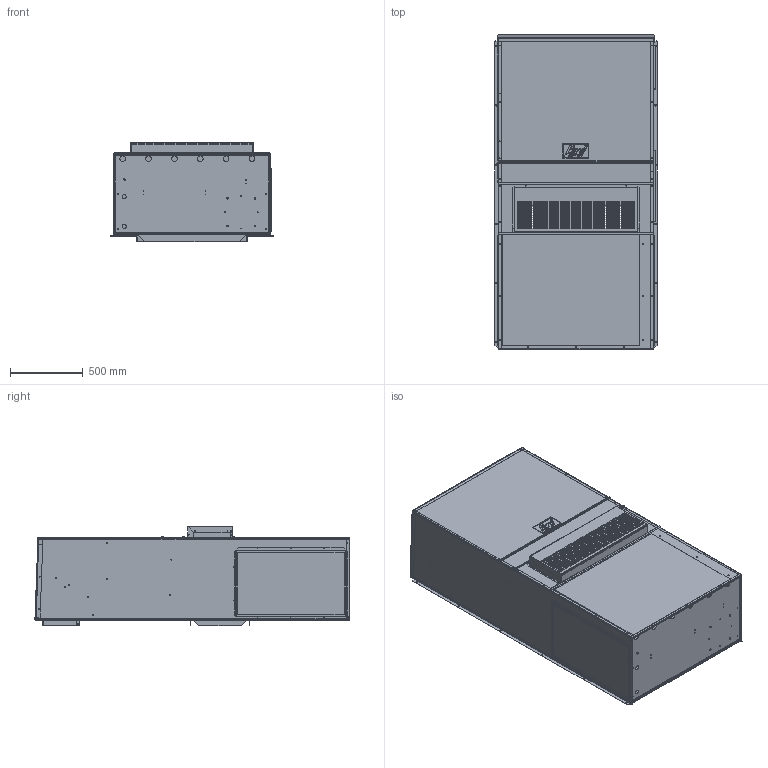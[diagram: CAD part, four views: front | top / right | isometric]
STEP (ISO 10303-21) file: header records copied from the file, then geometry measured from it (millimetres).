
FILE_DESCRIPTION (( 'STEP AP203' ), '1' );
FILE_NAME ('STEP_1000_3.STEP', '2016-06-22T16:59:15', ( '' ), ( '' ), 'SwSTEP 2.0', 'SolidWorks 2016', '' );
FILE_SCHEMA (( 'CONFIG_CONTROL_DESIGN' ));
Products named in the file (1): STEP_1000_3
Bounding box: 1114.29 x 2156.46 x 680.13 mm (x, y, z)
Surface area: 18346174.5 mm2 (no closed solid volume)
Topology: 0 solids, 39 shells, 3547 faces, 9736 edges, 6337 vertices
Faces by surface type: plane 1726, cylinder 1064, bspline 757
Entity records: 136859 total; most frequent: CARTESIAN_POINT 46960, ORIENTED_EDGE 19456, DIRECTION 17614, EDGE_CURVE 9736, VERTEX_POINT 6337, AXIS2_PLACEMENT_3D 5945, VECTOR 5724, LINE 5724
